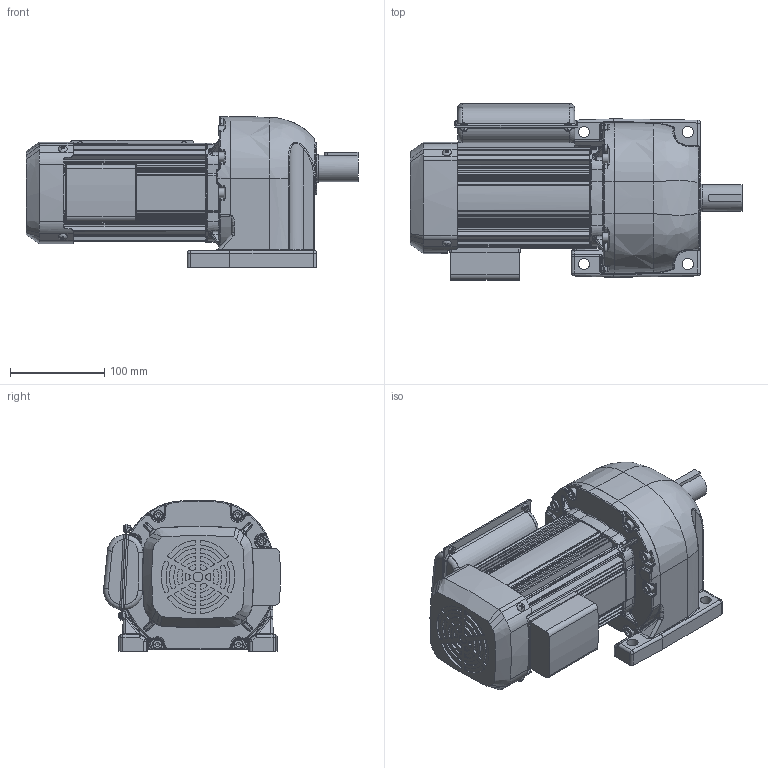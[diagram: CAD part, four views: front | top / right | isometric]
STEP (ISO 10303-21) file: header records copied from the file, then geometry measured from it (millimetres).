
FILE_DESCRIPTION( ( 'Unknown' ), '1' );
FILE_NAME( 'W:/gm/3D-WEB/GM-SS(単相)/完成品/パーツ/完成品/kai_ss_02_120-200.stp', 'Unknown', ( 'Unknown' ), ( 'Unknown' ), 'PSStep 11.0', 'Unknown', ' ' );
FILE_SCHEMA( ( 'AUTOMOTIVE_DESIGN { 1 0 10303 214 1 1 1 1 }' ) );
Length unit declared in the file: millimetre
Products named in the file (6): P264486_端子箱ｹｰｽ+PF03387_端子箱ｶﾊﾞｰ(ﾌ
Bounding box: 352 x 187.43 x 160 mm (x, y, z)
Volume: 4116569.1 mm3; surface area: 426447.1 mm2
Topology: 6 solids, 45 shells, 1948 faces, 4763 edges, 2948 vertices
Faces by surface type: cylinder 783, plane 737, bspline 169, torus 169, cone 46, sphere 44
Full cylindrical faces by diameter (mm): 3.3 x6, 3.8 x8, 4 x4, 4.134 x4, 4.5 x12, 4.8 x10, 4.917 x8, 5 x2, 6 x8, 6.8 x1, 7 x16, 8 x2, 8.2 x1, 8.5 x2, 10 x9, 12 x6, 15 x1, 16 x1, 28 x1, 29 x1, 29.1 x1, 30 x1, 36 x1, 53 x1, 62 x1, 100.5 x1
Entity records: 90942 total; most frequent: CARTESIAN_POINT 30849, DIRECTION 9477, ORIENTED_EDGE 8914, EDGE_CURVE 4457, AXIS2_PLACEMENT_3D 3781, VERTEX_POINT 2865, EDGE_LOOP 2235, FACE_OUTER_BOUND 2086
